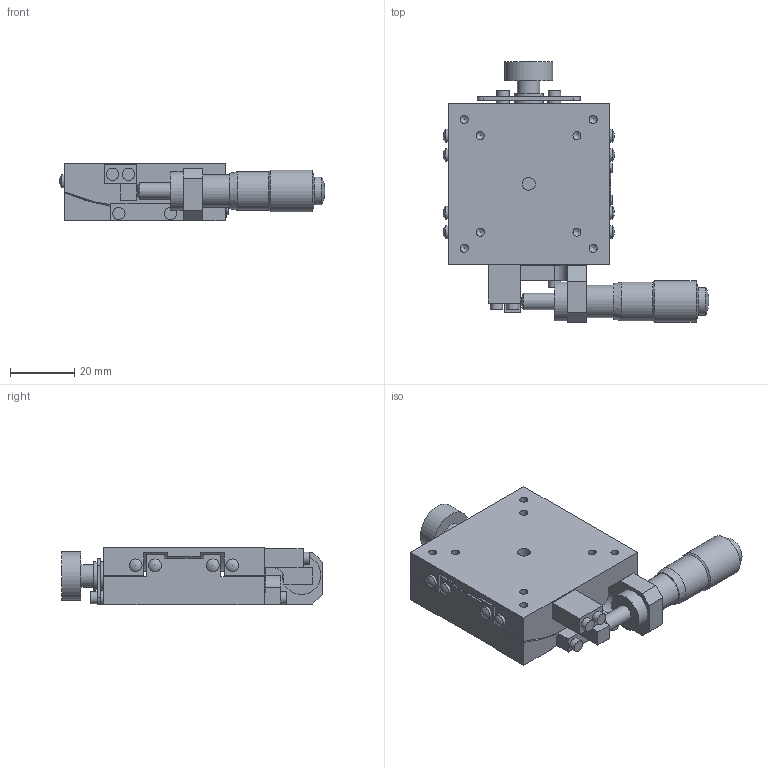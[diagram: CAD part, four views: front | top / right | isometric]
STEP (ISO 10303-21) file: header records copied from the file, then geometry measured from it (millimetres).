
FILE_DESCRIPTION( ( 'STEP AP203' ), '1' );
FILE_NAME( 'C:/Documents and Settings/09371/デスクトップ/CAD-ORG-STEP-DATA-3D簡素化依頼/3D_DATA_STEP/B58-50UC.step', '2007-02-09T00:55:38', ( ' ' ), ( ' ' ), 'XStep 1.0', ' ', ' ' );
FILE_SCHEMA( ( 'CONFIG_CONTROL_DESIGN' ) );
Length unit declared in the file: millimetre
Products named in the file (3): 1; 2; 3
Bounding box: 82.6 x 81 x 18 mm (x, y, z)
Volume: 50276.4 mm3; surface area: 23598.5 mm2
Topology: 3 solids, 3 shells, 200 faces, 504 edges, 331 vertices
Faces by surface type: plane 94, cylinder 84, cone 12, sphere 10
Full cylindrical faces by diameter (mm): 2.5 x16, 3 x3, 3.5 x4, 3.8 x6, 4 x13, 5 x2, 6 x4, 7 x1, 8.6 x1, 9 x2, 10 x1, 10.5 x1, 12 x2, 13 x1, 15 x1
Entity records: 5597 total; most frequent: CARTESIAN_POINT 1128, DIRECTION 937, ORIENTED_EDGE 746, EDGE_CURVE 373, AXIS2_PLACEMENT_3D 370, EDGE_LOOP 315, VERTEX_POINT 289, FACE_OUTER_BOUND 258
